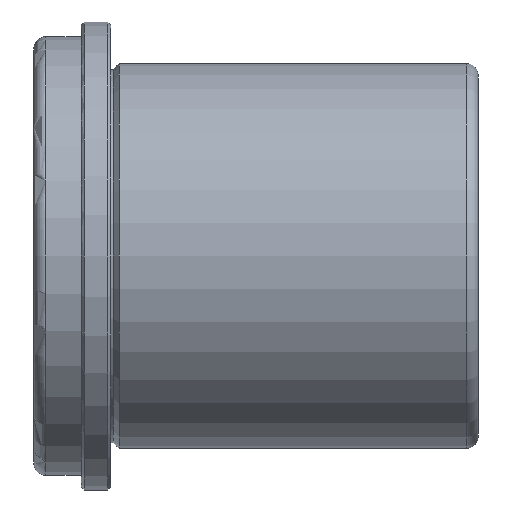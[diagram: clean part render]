
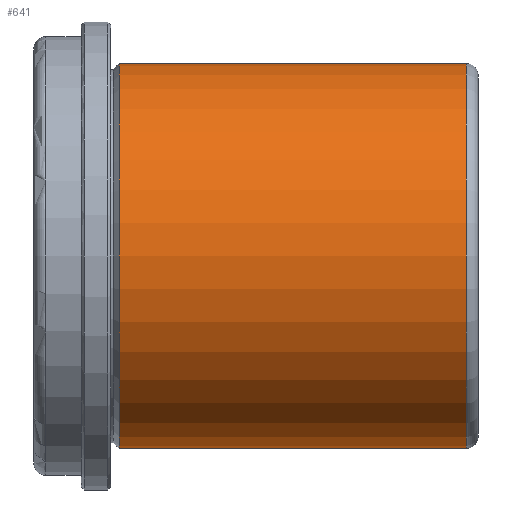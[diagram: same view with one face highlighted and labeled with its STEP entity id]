
A CAD part, front view. The second image highlights one B-rep face of the part: STEP entity #641.
In plain terms, the highlighted cylindrical face has radius 32.5 mm (diameter 65 mm), a partial arc.
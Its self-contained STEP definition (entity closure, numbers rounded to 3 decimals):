
#426=CARTESIAN_POINT('Line Origine',(62.,0.,32.5)) ;
#430=CARTESIAN_POINT('Vertex',(60.,0.,32.5)) ;
#432=CARTESIAN_POINT('Vertex',(1.414,0.,32.5)) ;
#446=CARTESIAN_POINT('Vertex',(60.,0.,-32.5)) ;
#449=CARTESIAN_POINT('Line Origine',(62.,0.,-32.5)) ;
#453=CARTESIAN_POINT('Vertex',(1.414,0.,-32.5)) ;
#604=CARTESIAN_POINT('Axis2P3D Location',(62.,0.,0.)) ;
#609=CARTESIAN_POINT('Axis2P3D Location',(60.,0.,0.)) ;
#613=CARTESIAN_POINT('Vertex',(60.,-32.5,0.)) ;
#616=CARTESIAN_POINT('Axis2P3D Location',(60.,0.,0.)) ;
#621=CARTESIAN_POINT('Axis2P3D Location',(1.414,0.,0.)) ;
#625=CARTESIAN_POINT('Vertex',(1.414,-32.5,0.)) ;
#628=CARTESIAN_POINT('Axis2P3D Location',(1.414,0.,0.)) ;
#427=DIRECTION('Vector Direction',(-1.,0.,0.)) ;
#450=DIRECTION('Vector Direction',(-1.,0.,0.)) ;
#605=DIRECTION('Axis2P3D Direction',(-1.,-0.,-0.)) ;
#606=DIRECTION('Axis2P3D XDirection',(0.,0.,-1.)) ;
#610=DIRECTION('Axis2P3D Direction',(-1.,-0.,-0.)) ;
#617=DIRECTION('Axis2P3D Direction',(-1.,-0.,-0.)) ;
#622=DIRECTION('Axis2P3D Direction',(-1.,-0.,-0.)) ;
#629=DIRECTION('Axis2P3D Direction',(-1.,-0.,-0.)) ;
#607=AXIS2_PLACEMENT_3D('Cylinder Axis2P3D',#604,#605,#606) ;
#611=AXIS2_PLACEMENT_3D('Circle Axis2P3D',#609,#610,$) ;
#618=AXIS2_PLACEMENT_3D('Circle Axis2P3D',#616,#617,$) ;
#623=AXIS2_PLACEMENT_3D('Circle Axis2P3D',#621,#622,$) ;
#630=AXIS2_PLACEMENT_3D('Circle Axis2P3D',#628,#629,$) ;
#634=ORIENTED_EDGE('',*,*,#455,.T.) ;
#635=ORIENTED_EDGE('',*,*,#615,.F.) ;
#636=ORIENTED_EDGE('',*,*,#620,.F.) ;
#637=ORIENTED_EDGE('',*,*,#434,.T.) ;
#638=ORIENTED_EDGE('',*,*,#627,.T.) ;
#639=ORIENTED_EDGE('',*,*,#632,.T.) ;
#428=VECTOR('Line Direction',#427,1.) ;
#451=VECTOR('Line Direction',#450,1.) ;
#641=ADVANCED_FACE('FAMO-SF1-B50 x 75',(#640),#608,.T.) ;
#612=CIRCLE('generated circle',#611,32.5) ;
#619=CIRCLE('generated circle',#618,32.5) ;
#624=CIRCLE('generated circle',#623,32.5) ;
#631=CIRCLE('generated circle',#630,32.5) ;
#608=CYLINDRICAL_SURFACE('generated cylinder',#607,32.5) ;
#434=EDGE_CURVE('',#431,#433,#429,.T.) ;
#455=EDGE_CURVE('',#454,#447,#452,.F.) ;
#615=EDGE_CURVE('',#614,#447,#612,.F.) ;
#620=EDGE_CURVE('',#431,#614,#619,.F.) ;
#627=EDGE_CURVE('',#433,#626,#624,.F.) ;
#632=EDGE_CURVE('',#626,#454,#631,.F.) ;
#633=EDGE_LOOP('',(#634,#635,#636,#637,#638,#639)) ;
#640=FACE_OUTER_BOUND('',#633,.T.) ;
#429=LINE('Line',#426,#428) ;
#452=LINE('Line',#449,#451) ;
#431=VERTEX_POINT('',#430) ;
#433=VERTEX_POINT('',#432) ;
#447=VERTEX_POINT('',#446) ;
#454=VERTEX_POINT('',#453) ;
#614=VERTEX_POINT('',#613) ;
#626=VERTEX_POINT('',#625) ;
